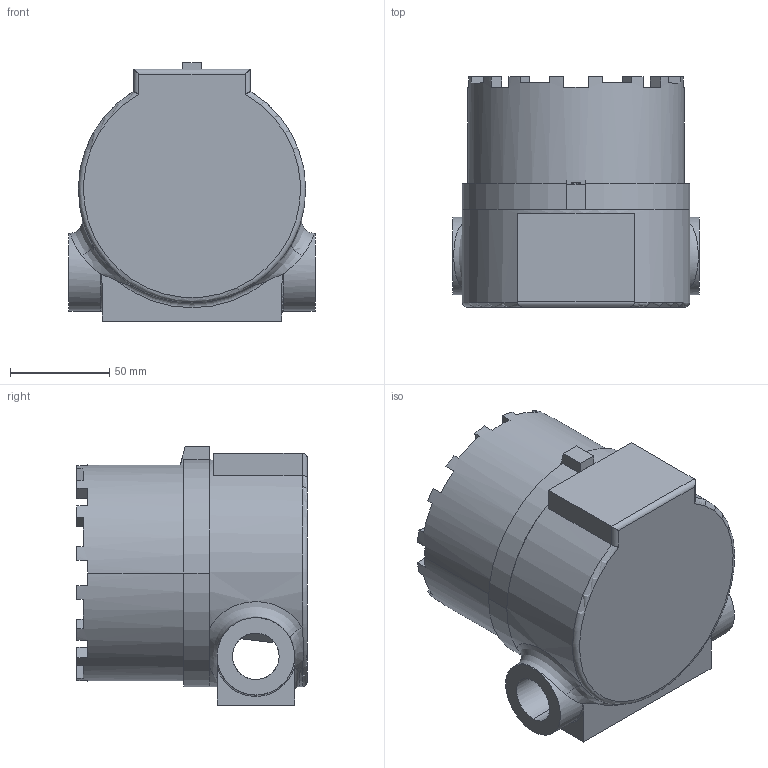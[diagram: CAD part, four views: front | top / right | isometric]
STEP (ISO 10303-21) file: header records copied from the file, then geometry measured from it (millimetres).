
FILE_DESCRIPTION (( 'STEP AP203' ), '1' );
FILE_NAME ('EXP-PHOTOCELL.STEP', '2017-01-12T14:56:03', ( '' ), ( '' ), 'SwSTEP 2.0', 'SolidWorks 2016', '' );
FILE_SCHEMA (( 'CONFIG_CONTROL_DESIGN' ));
Length unit declared in the file: inch
Products named in the file (1): EXP-PHOTOCELL
Bounding box: 123.76 x 115.89 x 129.87 mm (x, y, z)
Volume: 529899.3 mm3; surface area: 158187.8 mm2
Topology: 4 solids, 4 shells, 271 faces, 707 edges, 455 vertices
Faces by surface type: plane 165, cylinder 73, cone 18, bspline 10, torus 5
Entity records: 9336 total; most frequent: CARTESIAN_POINT 2582, ORIENTED_EDGE 1394, DIRECTION 1387, EDGE_CURVE 697, AXIS2_PLACEMENT_3D 476, VERTEX_POINT 455, VECTOR 435, LINE 435
